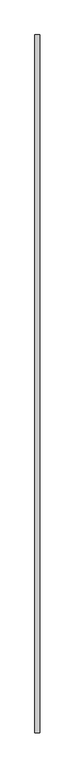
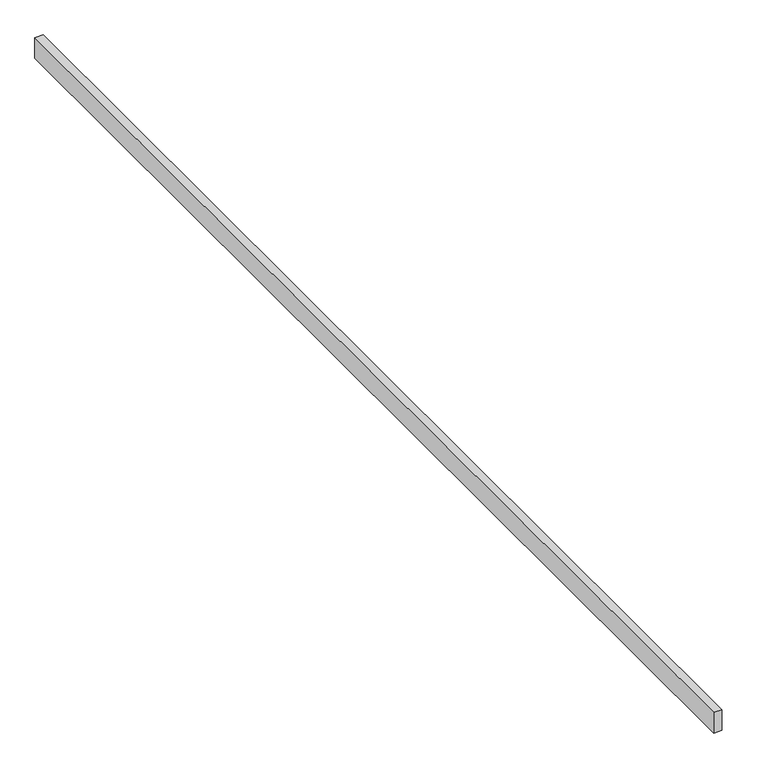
"""IFC4 building model written with IfcOpenShell, lengths in millimetres: proxy geometry, Modelos genéricos 102 : Modelos genéricos 1."""

import ifcopenshell
import ifcopenshell.guid

model = None  # the IFC model being written
_history = None  # IfcOwnerHistory: only IFC2X3 demands one
_inside = {}  # id of a spatial element -> (the spatial element, [elements in it])
_under = {}  # id of a project, library or spatial element -> (it, [spatial elements below it])
_declared = {}  # id of a project -> (the project, [libraries it declares])
_typed = {}  # id of a type object -> (the type object, [elements of that type])
_made_of = {}  # id of a material, layer set ... -> (it, [elements and type objects made of it])


def new_model(schema):
    """Start an empty IFC model of exactly this schema.

    Asked for "IFC4X3", IfcOpenShell would pick the latest addendum, in which some entities
    have other attributes; the version numbers below select the first issue.
    IFC2X3 requires an IfcOwnerHistory on every rooted entity: one is made here for all.
    """
    global model, _history
    if schema == "IFC4X3":
        model = ifcopenshell.file(schema_version=(4, 3, 0, 0))
    else:
        model = ifcopenshell.file(schema=schema)
    _inside.clear()
    _under.clear()
    _declared.clear()
    _typed.clear()
    _made_of.clear()
    _history = None
    if model.schema == "IFC2X3":
        org = make("IfcOrganization", Name="unknown")
        user = make(
            "IfcPersonAndOrganization",
            ThePerson=make("IfcPerson", FamilyName="unknown"),
            TheOrganization=org,
        )
        app = make(
            "IfcApplication",
            ApplicationDeveloper=org,
            Version="unknown",
            ApplicationFullName="unknown",
            ApplicationIdentifier="unknown",
        )
        _history = make(
            "IfcOwnerHistory",
            OwningUser=user,
            OwningApplication=app,
            ChangeAction="ADDED",
            CreationDate=0,
        )
    return model


def make(cls, **values):
    """One entity of the class cls with the attributes given. An attribute that is None is left unset."""
    return model.create_entity(
        cls, **{name: value for name, value in values.items() if value is not None}
    )


def rooted(cls, **values):
    """An entity with a GlobalId (a new one), such as an element, a storey or a relation."""
    return make(cls, GlobalId=ifcopenshell.guid.new(), OwnerHistory=_history, **values)


def si_unit(unit_type, name, prefix=None):
    """IfcSIUnit, for example si_unit("LENGTHUNIT", "METRE", prefix="MILLI")."""
    return make("IfcSIUnit", UnitType=unit_type, Prefix=prefix, Name=name)


def assignment(units):
    """IfcUnitAssignment: the units of a project."""
    return None if units is None else make("IfcUnitAssignment", Units=units)


def point(xyz):
    """IfcCartesianPoint."""
    return None if xyz is None else make("IfcCartesianPoint", Coordinates=xyz)


def direction(xyz):
    """IfcDirection."""
    return None if xyz is None else make("IfcDirection", DirectionRatios=xyz)


def frame(location, z_axis=None, x_axis=None):
    """IfcAxis2Placement3D, a coordinate frame: its origin and axes. An axis left out is left unset."""
    return make(
        "IfcAxis2Placement3D",
        Location=point(location),
        Axis=direction(z_axis),
        RefDirection=direction(x_axis),
    )


def origin():
    """The frame at (0, 0, 0) with its axes left unset."""
    return frame((0.0, 0.0, 0.0))


def place(relative_to, where):
    """IfcLocalPlacement: puts the frame where relative to a parent placement (None: the world)."""
    return make(
        "IfcLocalPlacement", PlacementRelTo=relative_to, RelativePlacement=where
    )


def context(
    kind, dimensions, precision=None, world=None, true_north=None, identifier=None
):
    """IfcGeometricRepresentationContext, for example the 3D "Model" context."""
    return make(
        "IfcGeometricRepresentationContext",
        ContextIdentifier=identifier,
        ContextType=kind,
        CoordinateSpaceDimension=dimensions,
        Precision=precision,
        WorldCoordinateSystem=world,
        TrueNorth=true_north,
    )


def project(units=None, contexts=None):
    """IfcProject with its units and contexts."""
    return rooted(
        "IfcProject",
        Name="project",
        RepresentationContexts=contexts,
        UnitsInContext=assignment(units),
    )


def spatial(cls, under=None, at=None, **own):
    """A site, building, storey or space (cls), placed at a placement, below another one or the project."""
    s = rooted(cls, ObjectPlacement=at, **own)
    if under is not None:
        _under.setdefault(under.id(), (under, []))[1].append(s)
    return s


def polyline(points):
    """IfcPolyline through the points."""
    return make("IfcPolyline", Points=[point(p) for p in points])


def outline(outer, holes=None, kind="AREA"):
    """IfcArbitraryClosedProfileDef: a profile drawn as a closed curve; with holes, ...WithVoids."""
    if holes is None:
        return make("IfcArbitraryClosedProfileDef", ProfileType=kind, OuterCurve=outer)
    return make(
        "IfcArbitraryProfileDefWithVoids",
        ProfileType=kind,
        OuterCurve=outer,
        InnerCurves=holes,
    )


def extrude(swept, where, along, depth):
    """IfcExtrudedAreaSolid: the profile swept, set in the frame where, extruded along a direction by depth."""
    return make(
        "IfcExtrudedAreaSolid",
        SweptArea=swept,
        Position=where,
        ExtrudedDirection=direction(along),
        Depth=depth,
    )


def shape(context_of_items, identifier, shape_type, items):
    """IfcShapeRepresentation: the items that make up one representation, for example the "Body"."""
    return make(
        "IfcShapeRepresentation",
        ContextOfItems=context_of_items,
        RepresentationIdentifier=identifier,
        RepresentationType=shape_type,
        Items=items,
    )


def source(mapping_origin, context_of_items, identifier, shape_type, items):
    """IfcRepresentationMap: a shape defined once, which mapped items show again and again."""
    return make(
        "IfcRepresentationMap",
        MappingOrigin=mapping_origin,
        MappedRepresentation=shape(context_of_items, identifier, shape_type, items),
    )


def transform(
    local_origin,
    x_axis=None,
    y_axis=None,
    z_axis=None,
    scale=None,
    scale2=None,
    scale3=None,
    uniform=True,
):
    """IfcCartesianTransformationOperator3D, or its non-uniform kind. x_axis, y_axis, z_axis: its Axis1, 2, 3."""
    if uniform:
        return make(
            "IfcCartesianTransformationOperator3D",
            Axis1=direction(x_axis),
            Axis2=direction(y_axis),
            LocalOrigin=point(local_origin),
            Scale=scale,
            Axis3=direction(z_axis),
        )
    return make(
        "IfcCartesianTransformationOperator3DnonUniform",
        Axis1=direction(x_axis),
        Axis2=direction(y_axis),
        LocalOrigin=point(local_origin),
        Scale=scale,
        Axis3=direction(z_axis),
        Scale2=scale2,
        Scale3=scale3,
    )


def mapped(mapping_source, mapping_target):
    """IfcMappedItem: shows the shape of a source again, moved by a transform."""
    return make(
        "IfcMappedItem", MappingSource=mapping_source, MappingTarget=mapping_target
    )


def made_of(thing, what):
    """Note that an element or type object is made of a material, layer set ...; save() writes the relation."""
    if what is not None:
        _made_of.setdefault(what.id(), (what, []))[1].append(thing)
    return thing


def element(
    cls,
    number,
    at=None,
    inside=None,
    cuts=None,
    type_object=None,
    material=None,
    context=None,
    identifier="Body",
    shape_type=None,
    held_by="IfcProductDefinitionShape",
    body=None,
    shapes=None,
    **own,
):
    """One element of the class cls, such as IfcWall. Its Tag is "e" and its number.

    at: its placement. inside: the storey or other place that contains it. cuts: it is an
    opening in that element (IfcRelVoidsElement). A single representation is given by context,
    identifier, shape_type and body (its items); several are given by shapes. held_by: the class
    of the entity that holds the representations. save() writes the other relations.
    """
    e = rooted(cls, Tag="e%d" % number, ObjectPlacement=at, **own)
    if body is not None:
        shapes = [shape(context, identifier, shape_type, body)]
    if shapes is not None:
        e.Representation = make(held_by, Representations=shapes)
    if inside is not None:
        _inside.setdefault(inside.id(), (inside, []))[1].append(e)
    if cuts is not None:
        rooted(
            "IfcRelVoidsElement", RelatingBuildingElement=cuts, RelatedOpeningElement=e
        )
    if type_object is not None:
        _typed.setdefault(type_object.id(), (type_object, []))[1].append(e)
    return made_of(e, material)


def aggregate(whole, parts):
    """IfcRelAggregates: a whole, such as a stair, and the parts it consists of."""
    return rooted("IfcRelAggregates", RelatingObject=whole, RelatedObjects=parts)


def save(model, path):
    """Write the relations noted so far, then the file.

    IfcRelAggregates (storeys below a building ...), IfcRelContainedInSpatialStructure (elements
    in a storey), IfcRelDefinesByType, IfcRelAssociatesMaterial and IfcRelDeclares: one each for
    every whole, place, type object, material and project.
    """
    for whole, parts in _under.values():
        aggregate(whole, parts)
    for where, things in _inside.values():
        rooted(
            "IfcRelContainedInSpatialStructure",
            RelatedElements=things,
            RelatingStructure=where,
        )
    for kind, things in _typed.values():
        rooted("IfcRelDefinesByType", RelatedObjects=things, RelatingType=kind)
    for what, things in _made_of.values():
        rooted("IfcRelAssociatesMaterial", RelatedObjects=things, RelatingMaterial=what)
    for by, libraries in _declared.values():
        rooted("IfcRelDeclares", RelatingContext=by, RelatedDefinitions=libraries)
    model.write(path)


def generic_models_1e5d9115(model_context):
    return source(origin(), model_context, "Body", "SweptSolid", [
        extrude(outline(polyline([(5573.4472467, 6228.6238165), (5633.4472467, 6228.6238165), (5633.4472467, -2331.3761835), (5573.4472467, -2331.3761835), (5573.4472467, 6228.6238165)])), frame((0.0, 0.0, 3000.0), z_axis=(0.0, 0.0, 1.0), x_axis=(1.0, 0.0, 0.0)), (0.0, 0.0, 1.0), 160.0),
    ])


if __name__ == "__main__":
    model = new_model("IFC4")
    model_context = context("Model", 3, world=origin())
    ifc_project = project(units=[si_unit("LENGTHUNIT", "METRE", prefix="MILLI")], contexts=[model_context])
    site = spatial("IfcSite", under=ifc_project)
    building = spatial("IfcBuilding", under=site)
    placement = place(None, origin())
    generic_models_shape = generic_models_1e5d9115(model_context)
    element("IfcBuildingElementProxy", 1, Name="Modelos genéricos 102 : Modelos genéricos 1", ObjectType="Modelos genéricos 102 : Modelos genéricos 1", at=placement, inside=building, context=model_context, shape_type="MappedRepresentation", body=[
        mapped(generic_models_shape, transform((0.0, 0.0, 0.0), x_axis=(1.0, 0.0, 0.0), y_axis=(0.0, 1.0, 0.0), z_axis=(0.0, 0.0, 1.0))),
    ])
    save(model, "model.ifc")
